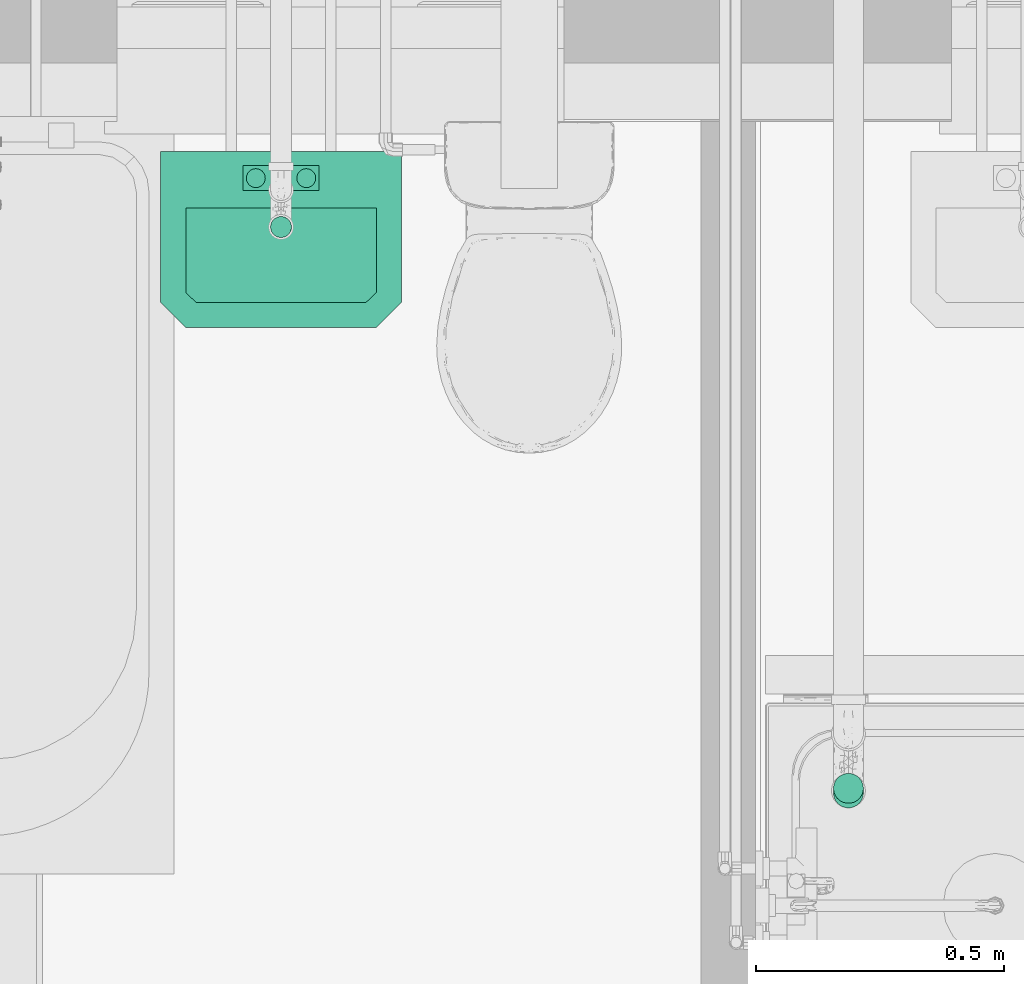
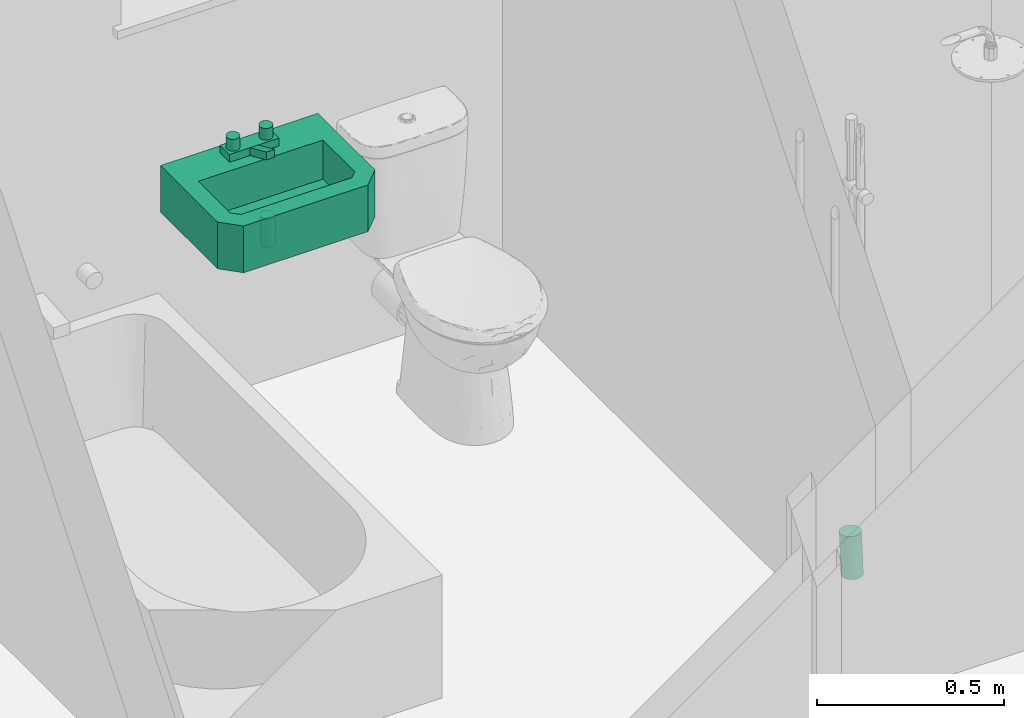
# One storey, part 19 of 41: 2 flow segments, 1 flow terminal.
"""IFC2X3 building model written with IfcOpenShell, lengths in millimetres."""

from ifc_helpers import new_model, entity, si_unit, converted_unit, derived_unit, direction, frame, frame_2d, origin, place, context, subcontext, project, spatial, circle, extrude, faceted_brep, source, transform, mapped, type_object, element, save


model = new_model("IFC2X3")

# Units and contexts
model_context = context("Model", 3, precision=0.01, world=origin(), true_north=direction((6.12303176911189e-17, 1.0)))
body_context = subcontext(model_context, "Body", "Model", "MODEL_VIEW")
ifc_project = project(units=[si_unit("LENGTHUNIT", "METRE", prefix="MILLI"), si_unit("AREAUNIT", "SQUARE_METRE"), si_unit("VOLUMEUNIT", "CUBIC_METRE"), converted_unit("PLANEANGLEUNIT", "DEGREE", entity("IfcRatioMeasure", 0.0174532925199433), si_unit("PLANEANGLEUNIT", "RADIAN"), dimensions=[0, 0, 0, 0, 0, 0, 0]), si_unit("MASSUNIT", "GRAM", prefix="KILO"), derived_unit("MASSDENSITYUNIT", [(si_unit("MASSUNIT", "GRAM", prefix="KILO"), 1), (si_unit("LENGTHUNIT", "METRE"), -3)]), si_unit("TIMEUNIT", "SECOND"), si_unit("FREQUENCYUNIT", "HERTZ"), si_unit("THERMODYNAMICTEMPERATUREUNIT", "DEGREE_CELSIUS"), derived_unit("THERMALTRANSMITTANCEUNIT", [(si_unit("MASSUNIT", "GRAM", prefix="KILO"), 1), (si_unit("THERMODYNAMICTEMPERATUREUNIT", "KELVIN"), -1), (si_unit("TIMEUNIT", "SECOND"), -3)]), derived_unit("VOLUMETRICFLOWRATEUNIT", [(si_unit("LENGTHUNIT", "METRE"), 3), (si_unit("TIMEUNIT", "SECOND"), -1)]), si_unit("ELECTRICCURRENTUNIT", "AMPERE"), si_unit("ELECTRICVOLTAGEUNIT", "VOLT"), si_unit("POWERUNIT", "WATT"), si_unit("FORCEUNIT", "NEWTON", prefix="KILO"), si_unit("ILLUMINANCEUNIT", "LUX"), si_unit("LUMINOUSFLUXUNIT", "LUMEN"), si_unit("LUMINOUSINTENSITYUNIT", "CANDELA"), derived_unit("USERDEFINED", [(si_unit("MASSUNIT", "GRAM", prefix="KILO"), -1), (si_unit("LENGTHUNIT", "METRE"), -2), (si_unit("TIMEUNIT", "SECOND"), 3), (si_unit("LUMINOUSFLUXUNIT", "LUMEN"), 1)]), derived_unit("LINEARVELOCITYUNIT", [(si_unit("LENGTHUNIT", "METRE"), 1), (si_unit("TIMEUNIT", "SECOND"), -1)]), si_unit("PRESSUREUNIT", "PASCAL"), derived_unit("USERDEFINED", [(si_unit("LENGTHUNIT", "METRE"), -2), (si_unit("MASSUNIT", "GRAM", prefix="KILO"), 1), (si_unit("TIMEUNIT", "SECOND"), -2)])], contexts=[model_context])

# Site, building, storey
site_placement = place(None, origin())
site = spatial("IfcSite", under=ifc_project, at=site_placement, Name="Surface", CompositionType="ELEMENT")
building_placement = place(site_placement, origin())
building = spatial("IfcBuilding", under=site, at=building_placement, CompositionType="ELEMENT")
storey_placement = place(building_placement, frame((0.0, 0.0, 300.0)))
storey = spatial("IfcBuildingStorey", under=building, at=storey_placement, Name="F.F.L", CompositionType="ELEMENT", Elevation=300.0)

# Flow segments
pipe_segment_type = type_object("IfcPipeSegmentType", Name="Pipe Types:PVC80", PredefinedType="NOTDEFINED")
flow_segment_1_placement = place(storey_placement, origin())
element("IfcFlowSegment", 1, at=flow_segment_1_placement, inside=storey, type_object=pipe_segment_type, Name="Pipe Types:PVC80", ObjectType="Pipe Types:PVC80", context=body_context, shape_type="SweptSolid", body=[
    extrude(circle(Radius=21.082, at=frame_2d((-5.4143345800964e-13, 0.0), x_axis=(1.0, 0.0))), frame((-3481.87517007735, 10333.4400891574, 619.599999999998), z_axis=(-0.000627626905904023, 0.0, 0.999999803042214), x_axis=(-0.999999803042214, 0.0, -0.000627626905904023)), (0.0, 0.0, 1.0), 93.0000183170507),
])
flow_segment_2_placement = place(storey_placement, origin())
element("IfcFlowSegment", 2, at=flow_segment_2_placement, inside=storey, type_object=pipe_segment_type, Name="Pipe Types:PVC80", ObjectType="Pipe Types:PVC80", context=body_context, shape_type="SweptSolid", body=[
    extrude(circle(Radius=30.1625, at=frame_2d((-2.70716782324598e-13, 0.0), x_axis=(1.0, 0.0))), frame((-2339.80584220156, 9194.22506444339, -166.671146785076), z_axis=(0.0, 0.0697564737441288, 0.997564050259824), x_axis=(-1.0, 0.0, 0.0)), (0.0, 0.0, 1.0), 135.000000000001),
])

# Space
space_placement = place(storey_placement, origin())
space = spatial("IfcSpace", under=storey, at=space_placement, Name="3", CompositionType="ELEMENT", InteriorOrExteriorSpace="INTERNAL")

# Flow terminal
shared_shape = source(origin(), body_context, "Body", "Brep", [
    faceted_brep([(9.52500000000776, -152.400000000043, 135.902216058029), (13.4703841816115, -152.400000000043, 138.929615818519), (16.4977839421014, -152.400000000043, 142.875000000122), (18.4008869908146, -152.400000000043, 147.469497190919), (19.0500000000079, -152.400000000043, 152.400000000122), (18.4008869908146, -152.400000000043, 157.330502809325), (16.4977839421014, -152.400000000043, 161.925000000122), (13.4703841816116, -152.400000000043, 165.870384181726), (9.52500000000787, -152.400000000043, 168.897783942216), (4.9305028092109, -152.400000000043, 170.800886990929), (0.0, -152.400000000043, 171.450000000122), (-4.93050280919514, -152.400000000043, 170.800886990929), (-9.52499999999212, -152.400000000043, 168.897783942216), (-13.4703841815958, -152.400000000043, 165.870384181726), (-16.4977839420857, -152.400000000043, 161.925000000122), (-18.4008869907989, -152.400000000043, 157.330502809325), (-19.0499999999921, -152.400000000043, 152.400000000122), (-18.4008869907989, -152.400000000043, 147.469497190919), (-16.4977839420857, -152.400000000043, 142.875000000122), (-13.4703841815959, -152.400000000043, 138.929615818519), (-9.52499999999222, -152.400000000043, 135.902216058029), (-4.93050280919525, -152.400000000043, 133.999113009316), (0.0, -152.400000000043, 133.350000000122), (4.93050280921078, -152.400000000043, 133.999113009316), (-9.52499999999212, -127.0, 168.897783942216), (-4.93050280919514, -127.0, 170.80088699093), (0.0, -127.0, 171.450000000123), (4.9305028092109, -127.0, 170.800886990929), (9.52500000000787, -127.0, 168.897783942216), (13.4703841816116, -127.0, 165.870384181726), (16.4977839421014, -127.0, 161.925000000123), (18.4008869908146, -127.0, 157.330502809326), (19.0500000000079, -127.0, 152.400000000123), (18.4008869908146, -127.0, 147.46949719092), (16.4977839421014, -127.0, 142.875000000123), (13.4703841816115, -127.0, 138.929615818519), (9.52500000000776, -127.0, 135.902216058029), (4.93050280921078, -127.0, 133.999113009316), (0.0, -127.0, 133.350000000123), (-4.93050280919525, -127.0, 133.999113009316), (-9.52499999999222, -127.0, 135.902216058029), (-13.4703841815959, -127.0, 138.929615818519), (-16.4977839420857, -127.0, 142.875000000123), (-18.4008869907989, -127.0, 147.46949719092), (-19.0499999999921, -127.0, 152.400000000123), (-18.4008869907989, -127.0, 157.330502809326), (-16.4977839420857, -127.0, 161.925000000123), (-13.4703841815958, -127.0, 165.870384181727)], [[[0, 1, 2, 3, 4, 5, 6, 7, 8, 9, 10, 11, 12, 13, 14, 15, 16, 17, 18, 19, 20, 21, 22, 23]], [[24, 25, 26, 27, 28, 29, 30, 31, 32, 33, 34, 35, 36, 37, 38, 39, 40, 41, 42, 43, 44, 45, 46, 47]], [[43, 17, 16, 44]], [[42, 18, 17, 43]], [[20, 19, 41, 40]], [[42, 41, 19, 18]], [[21, 20, 40, 39]], [[22, 21, 39, 38]], [[0, 36, 35, 1]], [[2, 34, 33, 3]], [[35, 34, 2, 1]], [[3, 33, 32, 4]], [[36, 0, 23, 37]], [[23, 22, 38, 37]], [[31, 5, 4, 32]], [[30, 6, 5, 31]], [[8, 7, 29, 28]], [[30, 29, 7, 6]], [[9, 8, 28, 27]], [[27, 26, 10, 9]], [[11, 25, 24, 12]], [[47, 13, 12, 24]], [[14, 46, 45, 15]], [[47, 46, 14, 13]], [[15, 45, 44, 16]], [[25, 11, 10, 26]]]),
    faceted_brep([(-4.93050280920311, -152.400000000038, 170.800886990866), (-191.699999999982, -152.40000000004, 355.0), (-9.52500000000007, -152.400000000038, 168.897783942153), (0.0, -152.400000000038, 171.450000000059), (191.700000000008, -152.40000000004, 355.0), (4.93050280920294, -152.400000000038, 170.800886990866), (9.5249999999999, -152.400000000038, 168.897783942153), (13.4703841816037, -152.400000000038, 165.870384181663), (16.4977839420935, -152.400000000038, 161.925000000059), (242.500000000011, -152.40000000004, 304.200000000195), (18.4008869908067, -152.400000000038, 157.330502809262), (19.05, -152.400000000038, 152.400000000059), (242.500000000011, -152.400000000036, 0.0), (18.4008869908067, -152.400000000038, 147.469497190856), (16.4977839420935, -152.400000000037, 142.875000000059), (13.4703841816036, -152.400000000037, 138.929615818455), (9.5249999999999, -152.400000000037, 135.902216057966), (4.9305028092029, -152.400000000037, 133.999113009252), (0.0, -152.400000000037, 133.350000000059), (-242.499999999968, -152.400000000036, 0.0), (-4.93050280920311, -152.400000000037, 133.999113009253), (-9.52500000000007, -152.400000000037, 135.902216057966), (-13.4703841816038, -152.400000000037, 138.929615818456), (-16.4977839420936, -152.400000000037, 142.875000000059), (-18.4008869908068, -152.400000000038, 147.469497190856), (-19.05, -152.400000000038, 152.400000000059), (-242.499999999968, -152.40000000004, 304.200000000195), (-18.4008869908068, -152.400000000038, 157.330502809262), (-16.4977839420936, -152.400000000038, 161.925000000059), (-13.4703841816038, -152.400000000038, 165.870384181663), (-191.699999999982, 0.0, 114.300000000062), (-242.499999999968, 0.0, 304.200000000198), (-191.699999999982, 0.0, 284.289321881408), (-242.499999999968, 0.0, 0.0), (191.700000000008, 0.0, 114.300000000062), (242.500000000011, 0.0, 0.0), (242.500000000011, 0.0, 304.200000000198), (191.700000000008, 0.0, 284.289321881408), (191.700000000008, 0.0, 355.0), (170.989321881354, 0.0, 304.200000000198), (-191.699999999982, 0.0, 355.0), (-170.989321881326, 0.0, 304.200000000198), (-19.05, -127.0, 152.40000000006), (-18.4008869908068, -127.0, 147.469497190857), (-16.4977839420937, -127.0, 142.87500000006), (-9.52500000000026, -127.0, 135.902216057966), (-13.4703841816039, -127.0, 138.929615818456), (-4.93050280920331, -127.0, 133.999113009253), (0.0, -127.0, 133.35000000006), (13.4703841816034, -127.0, 138.929615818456), (9.52499999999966, -127.0, 135.902216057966), (18.4008869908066, -127.0, 147.469497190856), (16.4977839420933, -127.0, 142.875000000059), (19.05, -127.0, 152.400000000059), (4.93050280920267, -127.0, 133.999113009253), (18.4008869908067, -127.0, 157.330502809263), (16.4977839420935, -127.0, 161.92500000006), (9.52499999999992, -127.0, 168.897783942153), (13.4703841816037, -127.0, 165.870384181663), (4.93050280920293, -127.0, 170.800886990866), (0.0, -127.0, 171.45000000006), (-9.52500000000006, -127.0, 168.897783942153), (-4.9305028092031, -127.0, 170.800886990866), (-13.4703841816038, -127.0, 165.870384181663), (-18.4008869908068, -127.0, 157.330502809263), (-16.4977839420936, -127.0, 161.92500000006), (170.989321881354, -127.0, 304.200000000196), (191.700000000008, -127.0, 284.289321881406), (-170.989321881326, -127.0, 304.200000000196), (-191.699999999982, -127.0, 284.289321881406), (-191.699999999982, -127.0, 114.30000000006), (191.700000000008, -127.0, 114.30000000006)], [[[0, 1, 2]], [[1, 0, 3]], [[3, 4, 1]], [[3, 5, 4]], [[4, 5, 6]], [[6, 7, 4]], [[7, 8, 4]], [[8, 9, 4]], [[8, 10, 9]], [[9, 10, 11]], [[11, 12, 9]], [[11, 13, 12]], [[14, 12, 13]], [[14, 15, 12]], [[16, 12, 15]], [[12, 16, 17]], [[17, 18, 12]], [[18, 19, 12]], [[19, 18, 20]], [[20, 21, 19]], [[22, 19, 21]], [[19, 22, 23]], [[23, 24, 19]], [[24, 25, 19]], [[25, 26, 19]], [[26, 25, 27]], [[27, 28, 26]], [[28, 1, 26]], [[28, 29, 1]], [[29, 2, 1]], [[30, 31, 32]], [[31, 30, 33]], [[33, 30, 34]], [[34, 35, 33]], [[36, 35, 34]], [[36, 34, 37]], [[38, 36, 37]], [[38, 37, 39]], [[38, 39, 40]], [[41, 40, 39]], [[32, 40, 41]], [[40, 32, 31]], [[19, 26, 31, 33]], [[12, 19, 33, 35]], [[9, 12, 35, 36]], [[4, 9, 36, 38]], [[1, 4, 38, 40]], [[26, 1, 40, 31]], [[42, 25, 24, 43]], [[43, 24, 23, 44]], [[45, 46, 22, 21]], [[22, 46, 44, 23]], [[47, 45, 21, 20]], [[47, 20, 18, 48]], [[49, 50, 16, 15]], [[51, 52, 14, 13]], [[15, 14, 52, 49]], [[53, 51, 13, 11]], [[54, 17, 16, 50]], [[54, 48, 18, 17]], [[53, 11, 10, 55]], [[55, 10, 8, 56]], [[57, 58, 7, 6]], [[7, 58, 56, 8]], [[59, 57, 6, 5]], [[5, 3, 60, 59]], [[61, 62, 0, 2]], [[61, 2, 29, 63]], [[64, 65, 28, 27]], [[29, 28, 65, 63]], [[42, 64, 27, 25]], [[60, 3, 0, 62]], [[56, 66, 67]], [[58, 66, 56]], [[55, 56, 67]], [[66, 58, 57]], [[66, 57, 59]], [[66, 59, 60]], [[60, 68, 66]], [[68, 60, 62]], [[68, 62, 61]], [[68, 61, 63]], [[63, 65, 68]], [[65, 69, 68]], [[69, 65, 64]], [[64, 70, 69]], [[70, 64, 42]], [[70, 42, 43]], [[43, 44, 70]], [[46, 70, 44]], [[70, 46, 45]], [[47, 70, 45]], [[70, 47, 48]], [[71, 70, 48]], [[48, 54, 71]], [[71, 54, 50]], [[71, 50, 49]], [[71, 49, 52]], [[52, 51, 71]], [[53, 71, 51]], [[71, 53, 55]], [[67, 71, 55]], [[39, 66, 68, 41]], [[41, 68, 69, 32]], [[32, 69, 70, 30]], [[30, 70, 71, 34]], [[34, 71, 67, 37]], [[37, 67, 66, 39]]]),
    faceted_brep([(-45.8694971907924, 25.3999999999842, 35.5741130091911), (-41.2749999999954, 25.3999999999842, 37.4772160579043), (-37.3296158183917, 25.3999999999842, 40.5046158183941), (-34.3022160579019, 25.3999999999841, 44.4499999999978), (-32.3991130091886, 25.399999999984, 49.0444971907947), (-31.7499999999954, 25.399999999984, 53.9749999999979), (-32.3991130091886, 25.3999999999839, 58.9055028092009), (-34.3022160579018, 25.3999999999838, 63.4999999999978), (-37.3296158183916, 25.3999999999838, 67.4453841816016), (-41.2749999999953, 25.3999999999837, 70.4727839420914), (-45.8694971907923, 25.3999999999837, 72.3758869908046), (-50.7999999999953, 25.3999999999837, 73.0249999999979), (-55.7305028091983, 25.3999999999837, 72.3758869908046), (-60.3249999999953, 25.3999999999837, 70.4727839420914), (-64.2703841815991, 25.3999999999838, 67.4453841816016), (-67.2977839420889, 25.3999999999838, 63.4999999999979), (-69.2008869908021, 25.3999999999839, 58.9055028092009), (-69.8499999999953, 25.399999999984, 53.9749999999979), (-69.2008869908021, 25.399999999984, 49.0444971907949), (-67.2977839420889, 25.3999999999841, 44.4499999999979), (-64.2703841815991, 25.3999999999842, 40.5046158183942), (-60.3249999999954, 25.3999999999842, 37.4772160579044), (-55.7305028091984, 25.3999999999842, 35.5741130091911), (-50.7999999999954, 25.3999999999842, 34.9249999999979), (-37.3296158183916, 63.4999999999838, 67.4453841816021), (-34.3022160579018, 63.4999999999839, 63.4999999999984), (-32.3991130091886, 63.4999999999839, 58.9055028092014), (-31.7499999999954, 63.499999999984, 53.9749999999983), (-32.3991130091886, 63.4999999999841, 49.0444971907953), (-34.3022160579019, 63.4999999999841, 44.4499999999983), (-37.3296158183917, 63.4999999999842, 40.5046158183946), (-41.2749999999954, 63.4999999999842, 37.4772160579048), (-45.8694971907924, 63.4999999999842, 35.5741130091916), (-50.7999999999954, 63.4999999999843, 34.9249999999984), (-55.7305028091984, 63.4999999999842, 35.5741130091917), (-60.3249999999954, 63.4999999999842, 37.4772160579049), (-64.2703841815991, 63.4999999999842, 40.5046158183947), (-67.2977839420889, 63.4999999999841, 44.4499999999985), (-69.2008869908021, 63.4999999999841, 49.0444971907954), (-69.8499999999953, 63.499999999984, 53.9749999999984), (-69.2008869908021, 63.4999999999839, 58.9055028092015), (-67.2977839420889, 63.4999999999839, 63.4999999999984), (-64.2703841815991, 63.4999999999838, 67.4453841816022), (-60.3249999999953, 63.4999999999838, 70.472783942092), (-55.7305028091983, 63.4999999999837, 72.3758869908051), (-50.7999999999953, 63.4999999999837, 73.0249999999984), (-45.8694971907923, 63.4999999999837, 72.3758869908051), (-41.2749999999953, 63.4999999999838, 70.4727839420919)], [[[0, 1, 2, 3, 4, 5, 6, 7, 8, 9, 10, 11, 12, 13, 14, 15, 16, 17, 18, 19, 20, 21, 22, 23]], [[24, 25, 26, 27, 28, 29, 30, 31, 32, 33, 34, 35, 36, 37, 38, 39, 40, 41, 42, 43, 44, 45, 46, 47]], [[36, 20, 19, 37]], [[21, 35, 34, 22]], [[20, 36, 35, 21]], [[22, 34, 33, 23]], [[17, 39, 38, 18]], [[38, 37, 19, 18]], [[0, 32, 31, 1]], [[30, 2, 1, 31]], [[3, 29, 28, 4]], [[30, 29, 3, 2]], [[4, 28, 27, 5]], [[32, 0, 23, 33]], [[26, 6, 5, 27]], [[25, 7, 6, 26]], [[46, 45, 11, 10]], [[24, 8, 7, 25]], [[9, 47, 46, 10]], [[9, 8, 24, 47]], [[12, 44, 43, 13]], [[42, 14, 13, 43]], [[15, 41, 40, 16]], [[42, 41, 15, 14]], [[16, 40, 39, 17]], [[44, 12, 11, 45]]]),
    faceted_brep([(12.7000000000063, 63.4999999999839, 165.977540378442), (-12.6999999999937, 63.4999999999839, 165.977540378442), (-12.6999999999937, 38.0999999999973, 165.977540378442), (12.7000000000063, 38.0999999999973, 165.977540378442), (12.7000000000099, 25.3999999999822, 79.3749999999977), (12.7000000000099, 0.0, 79.3749999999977), (-12.6999999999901, 0.0, 79.3749999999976), (-12.6999999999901, 25.3999999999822, 79.3749999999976)], [[[0, 1, 2, 3]], [[4, 5, 6, 7]], [[4, 7, 1, 0]], [[7, 6, 2, 1]], [[6, 5, 3, 2]], [[5, 4, 0, 3]]]),
    faceted_brep([(55.7305028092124, 25.3999999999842, 35.5741130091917), (60.3250000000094, 25.3999999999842, 37.4772160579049), (64.2703841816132, 25.3999999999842, 40.5046158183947), (67.297783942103, 25.3999999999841, 44.4499999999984), (69.2008869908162, 25.399999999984, 49.0444971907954), (69.8500000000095, 25.399999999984, 53.9749999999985), (69.2008869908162, 25.3999999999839, 58.9055028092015), (67.2977839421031, 25.3999999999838, 63.4999999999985), (64.2703841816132, 25.3999999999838, 67.4453841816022), (60.3250000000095, 25.3999999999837, 70.4727839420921), (55.7305028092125, 25.3999999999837, 72.3758869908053), (50.8000000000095, 25.3999999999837, 73.0249999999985), (45.8694971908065, 25.3999999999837, 72.3758869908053), (41.2750000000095, 25.3999999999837, 70.4727839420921), (37.3296158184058, 25.3999999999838, 67.4453841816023), (34.302216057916, 25.3999999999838, 63.4999999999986), (32.3991130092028, 25.3999999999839, 58.9055028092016), (31.7500000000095, 25.399999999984, 53.9749999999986), (32.3991130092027, 25.399999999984, 49.0444971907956), (34.3022160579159, 25.3999999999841, 44.4499999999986), (37.3296158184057, 25.3999999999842, 40.5046158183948), (41.2750000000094, 25.3999999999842, 37.477216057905), (45.8694971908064, 25.3999999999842, 35.5741130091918), (50.8000000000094, 25.3999999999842, 34.9249999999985), (50.8000000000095, 63.4999999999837, 73.024999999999), (55.7305028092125, 63.4999999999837, 72.3758869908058), (60.3250000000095, 63.4999999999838, 70.4727839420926), (64.2703841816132, 63.4999999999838, 67.4453841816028), (67.2977839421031, 63.4999999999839, 63.499999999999), (69.2008869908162, 63.4999999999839, 58.9055028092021), (69.8500000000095, 63.499999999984, 53.9749999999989), (69.2008869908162, 63.4999999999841, 49.0444971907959), (67.297783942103, 63.4999999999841, 44.4499999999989), (64.2703841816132, 63.4999999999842, 40.5046158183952), (60.3250000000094, 63.4999999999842, 37.4772160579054), (55.7305028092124, 63.4999999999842, 35.5741130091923), (50.8000000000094, 63.4999999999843, 34.924999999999), (45.8694971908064, 63.4999999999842, 35.5741130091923), (41.2750000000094, 63.4999999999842, 37.4772160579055), (37.3296158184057, 63.4999999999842, 40.5046158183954), (34.3022160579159, 63.4999999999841, 44.4499999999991), (32.3991130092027, 63.4999999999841, 49.0444971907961), (31.7500000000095, 63.499999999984, 53.9749999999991), (32.3991130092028, 63.4999999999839, 58.9055028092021), (34.302216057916, 63.4999999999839, 63.4999999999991), (37.3296158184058, 63.4999999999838, 67.4453841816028), (41.2750000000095, 63.4999999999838, 70.4727839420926), (45.8694971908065, 63.4999999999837, 72.3758869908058)], [[[0, 1, 2, 3, 4, 5, 6, 7, 8, 9, 10, 11, 12, 13, 14, 15, 16, 17, 18, 19, 20, 21, 22, 23]], [[24, 25, 26, 27, 28, 29, 30, 31, 32, 33, 34, 35, 36, 37, 38, 39, 40, 41, 42, 43, 44, 45, 46, 47]], [[39, 20, 19, 40]], [[21, 38, 37, 22]], [[20, 39, 38, 21]], [[22, 37, 36, 23]], [[17, 42, 41, 18]], [[41, 40, 19, 18]], [[0, 35, 34, 1]], [[33, 2, 1, 34]], [[3, 32, 31, 4]], [[33, 32, 3, 2]], [[4, 31, 30, 5]], [[35, 0, 23, 36]], [[29, 6, 5, 30]], [[28, 7, 6, 29]], [[25, 24, 11, 10]], [[27, 8, 7, 28]], [[9, 26, 25, 10]], [[9, 8, 27, 26]], [[12, 47, 46, 13]], [[45, 14, 13, 46]], [[15, 44, 43, 16]], [[45, 44, 15, 14]], [[16, 43, 42, 17]], [[47, 12, 11, 24]]]),
    faceted_brep([(-76.1999999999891, 0.0, 79.3749999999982), (-76.1999999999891, 0.0, 28.5749999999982), (76.2000000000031, 0.0, 28.5749999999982), (76.2000000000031, 0.0, 79.3749999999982), (-76.1999999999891, 25.3999999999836, 79.3749999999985), (76.2000000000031, 25.3999999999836, 79.3749999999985), (76.2000000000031, 25.3999999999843, 28.5749999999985), (-76.1999999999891, 25.3999999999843, 28.5749999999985)], [[[0, 1, 2, 3]], [[4, 5, 6, 7]], [[1, 0, 4, 7]], [[2, 1, 7, 6]], [[3, 2, 6, 5]], [[0, 3, 5, 4]]]),
])
flow_terminal_placement = place(space_placement, frame((-3481.87517007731, 10485.8400891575, 865.0), z_axis=(0.0, -1.0, 0.0), x_axis=(1.0, 0.0, 0.0)))
element("IfcFlowTerminal", 3, at=flow_terminal_placement, inside=space, Name="M_Lavatory - Wall Mounted:485 mmx355 mm - Private", ObjectType="485 mmx355 mm - Private", context=body_context, shape_type="MappedRepresentation", body=[
    mapped(shared_shape, transform((0.0, 0.0, 0.0), scale=1.0)),
])

save(model, "model.ifc")
